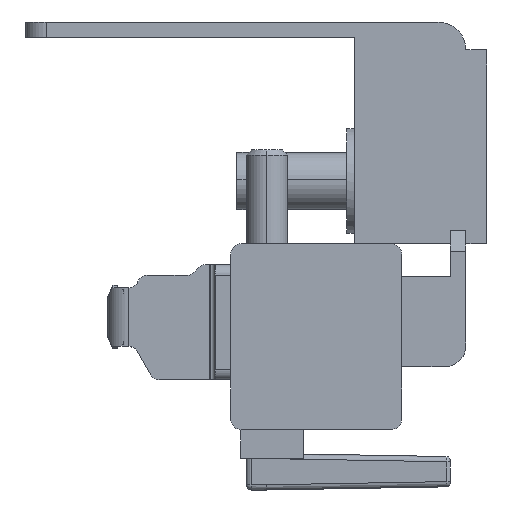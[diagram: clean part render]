
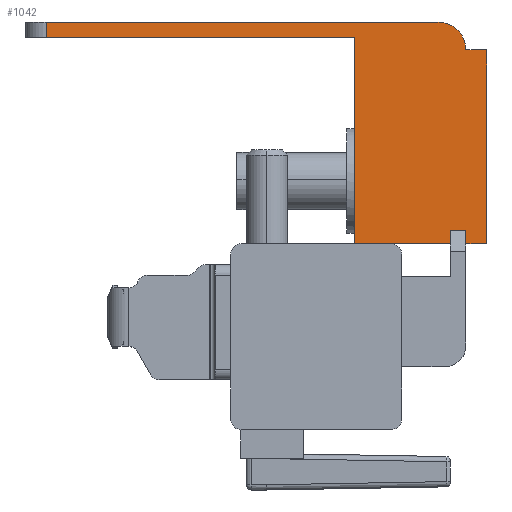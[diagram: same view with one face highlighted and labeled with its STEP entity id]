
A CAD part, left-side view. The second image highlights one B-rep face of the part: STEP entity #1042.
In plain terms, the highlighted planar face has unit normal (-1, 0, 0).
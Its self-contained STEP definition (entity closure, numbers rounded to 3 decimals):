
#84 = VECTOR ( 'NONE', #2390, 1000. ) ;
#238 = DIRECTION ( 'NONE',  ( 0., 0., -1. ) ) ;
#258 = DIRECTION ( 'NONE',  ( 0., -1., 0. ) ) ;
#263 = CARTESIAN_POINT ( 'NONE',  ( -316., -26.863, -1.651 ) ) ;
#279 = CARTESIAN_POINT ( 'NONE',  ( -316., -17.713, -1.651 ) ) ;
#298 = VERTEX_POINT ( 'NONE', #3963 ) ;
#300 = LINE ( 'NONE', #5155, #4906 ) ;
#345 = LINE ( 'NONE', #263, #2575 ) ;
#348 = EDGE_CURVE ( 'NONE', #2517, #5629, #5545, .T. ) ;
#484 = CARTESIAN_POINT ( 'NONE',  ( -316., -28.333, -0.361 ) ) ;
#681 = CARTESIAN_POINT ( 'NONE',  ( -316., -17.713, 18.079 ) ) ;
#723 = DIRECTION ( 'NONE',  ( 0., 0., -1. ) ) ;
#752 = VERTEX_POINT ( 'NONE', #3570 ) ;
#781 = ORIENTED_EDGE ( 'NONE', *, *, #2367, .T. ) ;
#871 = DIRECTION ( 'NONE',  ( 1., 0., 0. ) ) ;
#889 = DIRECTION ( 'NONE',  ( 0., 1., 0. ) ) ;
#911 = PLANE ( 'NONE',  #3751 ) ;
#1026 = VECTOR ( 'NONE', #3557, 1000. ) ;
#1042 = ADVANCED_FACE ( 'NONE', ( #1289 ), #911, .F. ) ;
#1123 = AXIS2_PLACEMENT_3D ( 'NONE', #4048, #1399, #4505 ) ;
#1203 = CARTESIAN_POINT ( 'NONE',  ( -316., -28.333, -1.651 ) ) ;
#1289 = FACE_OUTER_BOUND ( 'NONE', #1866, .T. ) ;
#1309 = VERTEX_POINT ( 'NONE', #484 ) ;
#1349 = CARTESIAN_POINT ( 'NONE',  ( -316., 14.667, 19.549 ) ) ;
#1350 = CARTESIAN_POINT ( 'NONE',  ( -316., -17.713, -1.651 ) ) ;
#1399 = DIRECTION ( 'NONE',  ( -1., 0., 0. ) ) ;
#1447 = VECTOR ( 'NONE', #1817, 1000. ) ;
#1452 = LINE ( 'NONE', #5610, #3668 ) ;
#1520 = ORIENTED_EDGE ( 'NONE', *, *, #4452, .T. ) ;
#1587 = VERTEX_POINT ( 'NONE', #3910 ) ;
#1765 = CARTESIAN_POINT ( 'NONE',  ( -316., -29.063, 15.779 ) ) ;
#1817 = DIRECTION ( 'NONE',  ( 0., 0., 1. ) ) ;
#1866 = EDGE_LOOP ( 'NONE', ( #3566, #4347, #4243, #2687, #3837, #1520, #2488, #2577, #3854, #2154, #781, #3162, #1946 ) ) ;
#1874 = VECTOR ( 'NONE', #5221, 1000. ) ;
#1912 = CARTESIAN_POINT ( 'NONE',  ( -316., -26.863, -0.361 ) ) ;
#1946 = ORIENTED_EDGE ( 'NONE', *, *, #5482, .F. ) ;
#1968 = DIRECTION ( 'NONE',  ( 0., 1., 0. ) ) ;
#2027 = CARTESIAN_POINT ( 'NONE',  ( -316., -30.333, 16.879 ) ) ;
#2154 = ORIENTED_EDGE ( 'NONE', *, *, #2845, .F. ) ;
#2164 = LINE ( 'NONE', #2974, #1874 ) ;
#2179 = CARTESIAN_POINT ( 'NONE',  ( -316., -26.863, -0.361 ) ) ;
#2355 = VERTEX_POINT ( 'NONE', #681 ) ;
#2367 = EDGE_CURVE ( 'NONE', #4119, #298, #1452, .T. ) ;
#2390 = DIRECTION ( 'NONE',  ( 0., 0., -1. ) ) ;
#2488 = ORIENTED_EDGE ( 'NONE', *, *, #3410, .F. ) ;
#2517 = VERTEX_POINT ( 'NONE', #5279 ) ;
#2568 = VERTEX_POINT ( 'NONE', #5715 ) ;
#2575 = VECTOR ( 'NONE', #723, 1000. ) ;
#2577 = ORIENTED_EDGE ( 'NONE', *, *, #4792, .T. ) ;
#2603 = DIRECTION ( 'NONE',  ( 0., 1., 0. ) ) ;
#2607 = LINE ( 'NONE', #2823, #84 ) ;
#2687 = ORIENTED_EDGE ( 'NONE', *, *, #5444, .F. ) ;
#2714 = LINE ( 'NONE', #3723, #3614 ) ;
#2763 = EDGE_CURVE ( 'NONE', #298, #1587, #2164, .T. ) ;
#2823 = CARTESIAN_POINT ( 'NONE',  ( -316., 11.767, 17.779 ) ) ;
#2845 = EDGE_CURVE ( 'NONE', #4119, #2355, #3816, .T. ) ;
#2974 = CARTESIAN_POINT ( 'NONE',  ( -316., -17.713, -1.651 ) ) ;
#3109 = CIRCLE ( 'NONE', #1123, 2.67 ) ;
#3162 = ORIENTED_EDGE ( 'NONE', *, *, #2763, .T. ) ;
#3163 = EDGE_CURVE ( 'NONE', #1309, #3653, #3596, .T. ) ;
#3410 = EDGE_CURVE ( 'NONE', #5025, #5246, #4993, .T. ) ;
#3442 = CARTESIAN_POINT ( 'NONE',  ( -316., -25.663, 19.549 ) ) ;
#3464 = VECTOR ( 'NONE', #2603, 1000. ) ;
#3557 = DIRECTION ( 'NONE',  ( 0., -1., 0. ) ) ;
#3566 = ORIENTED_EDGE ( 'NONE', *, *, #3163, .F. ) ;
#3570 = CARTESIAN_POINT ( 'NONE',  ( -316., 11.767, 18.079 ) ) ;
#3596 = LINE ( 'NONE', #2179, #3464 ) ;
#3614 = VECTOR ( 'NONE', #1968, 1000. ) ;
#3653 = VERTEX_POINT ( 'NONE', #1912 ) ;
#3668 = VECTOR ( 'NONE', #258, 1000. ) ;
#3723 = CARTESIAN_POINT ( 'NONE',  ( -316., -30.333, -1.651 ) ) ;
#3751 = AXIS2_PLACEMENT_3D ( 'NONE', #1765, #871, #889 ) ;
#3816 = LINE ( 'NONE', #1350, #1447 ) ;
#3837 = ORIENTED_EDGE ( 'NONE', *, *, #348, .T. ) ;
#3854 = ORIENTED_EDGE ( 'NONE', *, *, #4082, .F. ) ;
#3894 = VECTOR ( 'NONE', #238, 1000. ) ;
#3910 = CARTESIAN_POINT ( 'NONE',  ( -316., -26.863, -1.651 ) ) ;
#3936 = CARTESIAN_POINT ( 'NONE',  ( -316., -28.333, 16.879 ) ) ;
#3963 = CARTESIAN_POINT ( 'NONE',  ( -316., -21.203, -1.651 ) ) ;
#3971 = VECTOR ( 'NONE', #4307, 1000. ) ;
#4048 = CARTESIAN_POINT ( 'NONE',  ( -316., -25.663, 16.879 ) ) ;
#4082 = EDGE_CURVE ( 'NONE', #2355, #752, #300, .T. ) ;
#4119 = VERTEX_POINT ( 'NONE', #279 ) ;
#4243 = ORIENTED_EDGE ( 'NONE', *, *, #5062, .F. ) ;
#4258 = DIRECTION ( 'NONE',  ( 0., 1., 0. ) ) ;
#4269 = DIRECTION ( 'NONE',  ( 0., 1., 0. ) ) ;
#4302 = CARTESIAN_POINT ( 'NONE',  ( -316., -30.333, 16.879 ) ) ;
#4307 = DIRECTION ( 'NONE',  ( 0., 0., 1. ) ) ;
#4337 = CARTESIAN_POINT ( 'NONE',  ( -316., 11.767, 19.549 ) ) ;
#4347 = ORIENTED_EDGE ( 'NONE', *, *, #5204, .F. ) ;
#4355 = VECTOR ( 'NONE', #4258, 1000. ) ;
#4452 = EDGE_CURVE ( 'NONE', #5629, #5246, #3109, .T. ) ;
#4505 = DIRECTION ( 'NONE',  ( 0., 0., -1. ) ) ;
#4792 = EDGE_CURVE ( 'NONE', #5025, #752, #2607, .T. ) ;
#4870 = CARTESIAN_POINT ( 'NONE',  ( -316., -30.333, -1.651 ) ) ;
#4906 = VECTOR ( 'NONE', #4269, 1000. ) ;
#4993 = LINE ( 'NONE', #1349, #1026 ) ;
#5025 = VERTEX_POINT ( 'NONE', #4337 ) ;
#5062 = EDGE_CURVE ( 'NONE', #5363, #2568, #2714, .T. ) ;
#5087 = LINE ( 'NONE', #2027, #3894 ) ;
#5155 = CARTESIAN_POINT ( 'NONE',  ( -316., -29.063, 18.079 ) ) ;
#5162 = LINE ( 'NONE', #1203, #3971 ) ;
#5204 = EDGE_CURVE ( 'NONE', #2568, #1309, #5162, .T. ) ;
#5221 = DIRECTION ( 'NONE',  ( 0., -1., 0. ) ) ;
#5246 = VERTEX_POINT ( 'NONE', #3442 ) ;
#5279 = CARTESIAN_POINT ( 'NONE',  ( -316., -30.333, 16.879 ) ) ;
#5363 = VERTEX_POINT ( 'NONE', #4870 ) ;
#5444 = EDGE_CURVE ( 'NONE', #2517, #5363, #5087, .T. ) ;
#5482 = EDGE_CURVE ( 'NONE', #3653, #1587, #345, .T. ) ;
#5545 = LINE ( 'NONE', #4302, #4355 ) ;
#5610 = CARTESIAN_POINT ( 'NONE',  ( -316., -17.713, -1.651 ) ) ;
#5629 = VERTEX_POINT ( 'NONE', #3936 ) ;
#5715 = CARTESIAN_POINT ( 'NONE',  ( -316., -28.333, -1.651 ) ) ;
